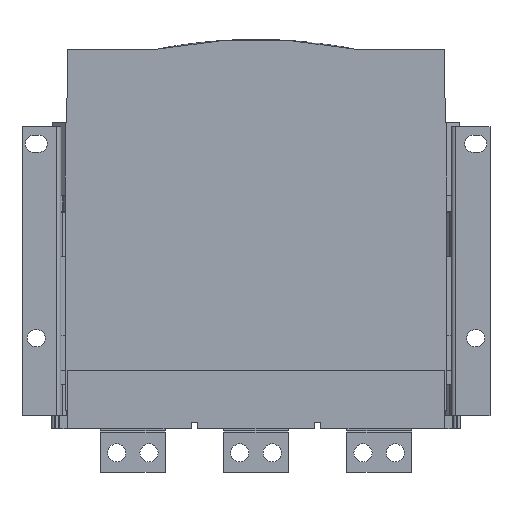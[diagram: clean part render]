
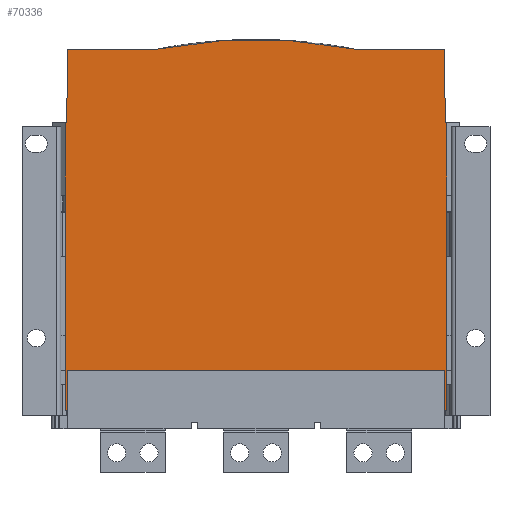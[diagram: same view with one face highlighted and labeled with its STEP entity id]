
A CAD part, front view. The second image highlights one B-rep face of the part: STEP entity #70336.
In plain terms, the highlighted planar face has unit normal (0, -1, 0).
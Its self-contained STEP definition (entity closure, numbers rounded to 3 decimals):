
#846 = LINE ( 'NONE', #36743, #36510 ) ;
#3301 = ORIENTED_EDGE ( 'NONE', *, *, #56195, .T. ) ;
#3808 = VECTOR ( 'NONE', #16200, 1000. ) ;
#4419 = EDGE_CURVE ( 'NONE', #72844, #35437, #32919, .T. ) ;
#6377 = CARTESIAN_POINT ( 'NONE',  ( 589.21, 279.746, 924.584 ) ) ;
#6448 = EDGE_CURVE ( 'NONE', #58912, #54124, #41372, .T. ) ;
#6473 = VECTOR ( 'NONE', #20622, 1000. ) ;
#7657 = VERTEX_POINT ( 'NONE', #35213 ) ;
#8464 = CARTESIAN_POINT ( 'NONE',  ( 587.41, 279.746, 566.152 ) ) ;
#9448 = ORIENTED_EDGE ( 'NONE', *, *, #16133, .F. ) ;
#10294 = DIRECTION ( 'NONE',  ( 0., 0., -1. ) ) ;
#12829 = VECTOR ( 'NONE', #49314, 1000. ) ;
#12830 = DIRECTION ( 'NONE',  ( 0., 0., 1. ) ) ;
#13909 = CARTESIAN_POINT ( 'NONE',  ( 587.71, 279.746, 283.769 ) ) ;
#14211 = LINE ( 'NONE', #8464, #6473 ) ;
#15276 = EDGE_CURVE ( 'NONE', #39826, #35085, #77243, .T. ) ;
#16133 = EDGE_CURVE ( 'NONE', #58912, #26922, #846, .T. ) ;
#16169 = CARTESIAN_POINT ( 'NONE',  ( 588.261, 279.746, 505.269 ) ) ;
#16200 = DIRECTION ( 'NONE',  ( 1., 0., 0. ) ) ;
#16204 = CARTESIAN_POINT ( 'NONE',  ( 589.21, 279.746, 924.584 ) ) ;
#17637 = ORIENTED_EDGE ( 'NONE', *, *, #65179, .F. ) ;
#18438 = ORIENTED_EDGE ( 'NONE', *, *, #53153, .F. ) ;
#19652 = CARTESIAN_POINT ( 'NONE',  ( 295.21, 279.746, 505.269 ) ) ;
#19673 = DIRECTION ( 'NONE',  ( 1., 0., 0. ) ) ;
#20032 = CARTESIAN_POINT ( 'NONE',  ( 442.21, 279.746, 174.696 ) ) ;
#20251 = LINE ( 'NONE', #65816, #3808 ) ;
#20622 = DIRECTION ( 'NONE',  ( 0.014, 0., -1. ) ) ;
#21137 = ORIENTED_EDGE ( 'NONE', *, *, #32835, .T. ) ;
#22074 = CARTESIAN_POINT ( 'NONE',  ( 284.21, 279.746, 561.919 ) ) ;
#24074 = ORIENTED_EDGE ( 'NONE', *, *, #54371, .T. ) ;
#24216 = FACE_OUTER_BOUND ( 'NONE', #51347, .T. ) ;
#26197 = DIRECTION ( 'NONE',  ( 0., -1., 0. ) ) ;
#26922 = VERTEX_POINT ( 'NONE', #78757 ) ;
#28704 = CARTESIAN_POINT ( 'NONE',  ( 587.71, 279.746, 314.269 ) ) ;
#30462 = LINE ( 'NONE', #63771, #51870 ) ;
#30855 = VECTOR ( 'NONE', #19673, 1000. ) ;
#31464 = CARTESIAN_POINT ( 'NONE',  ( 296.71, 279.746, 314.269 ) ) ;
#31634 = CARTESIAN_POINT ( 'NONE',  ( 587.47, 279.746, 561.919 ) ) ;
#31658 = CARTESIAN_POINT ( 'NONE',  ( 295.21, 279.746, 283.769 ) ) ;
#32300 = VERTEX_POINT ( 'NONE', #47610 ) ;
#32507 = DIRECTION ( 'NONE',  ( 1., 0., 0. ) ) ;
#32835 = EDGE_CURVE ( 'NONE', #72844, #57263, #55404, .T. ) ;
#32919 = LINE ( 'NONE', #71234, #58117 ) ;
#32930 = DIRECTION ( 'NONE',  ( 0., 0., 1. ) ) ;
#33860 = DIRECTION ( 'NONE',  ( 1., 0., 0. ) ) ;
#34231 = DIRECTION ( 'NONE',  ( 0., 0., -1. ) ) ;
#34610 = EDGE_CURVE ( 'NONE', #38777, #39826, #73108, .T. ) ;
#35011 = CARTESIAN_POINT ( 'NONE',  ( 364.21, 279.746, 561.919 ) ) ;
#35085 = VERTEX_POINT ( 'NONE', #70006 ) ;
#35213 = CARTESIAN_POINT ( 'NONE',  ( 296.951, 279.746, 561.919 ) ) ;
#35437 = VERTEX_POINT ( 'NONE', #68885 ) ;
#36117 = CARTESIAN_POINT ( 'NONE',  ( 589.21, 279.746, 283.769 ) ) ;
#36510 = VECTOR ( 'NONE', #63198, 1000. ) ;
#36743 = CARTESIAN_POINT ( 'NONE',  ( 589.21, 279.746, 505.269 ) ) ;
#36948 = DIRECTION ( 'NONE',  ( 1., 0., 0. ) ) ;
#38383 = LINE ( 'NONE', #22074, #65429 ) ;
#38566 = DIRECTION ( 'NONE',  ( -1., 0., 0. ) ) ;
#38777 = VERTEX_POINT ( 'NONE', #16169 ) ;
#39651 = VECTOR ( 'NONE', #71478, 1000. ) ;
#39826 = VERTEX_POINT ( 'NONE', #63755 ) ;
#40030 = EDGE_CURVE ( 'NONE', #7657, #26922, #64015, .T. ) ;
#41027 = CARTESIAN_POINT ( 'NONE',  ( 295.21, 279.746, 924.584 ) ) ;
#41372 = LINE ( 'NONE', #41027, #54013 ) ;
#42014 = AXIS2_PLACEMENT_3D ( 'NONE', #20032, #26197, #38566 ) ;
#44928 = EDGE_CURVE ( 'NONE', #65767, #57263, #30462, .T. ) ;
#44942 = ORIENTED_EDGE ( 'NONE', *, *, #6448, .T. ) ;
#45228 = CARTESIAN_POINT ( 'NONE',  ( 589.21, 279.746, 505.269 ) ) ;
#46169 = VERTEX_POINT ( 'NONE', #35011 ) ;
#47610 = CARTESIAN_POINT ( 'NONE',  ( 520.21, 279.746, 561.919 ) ) ;
#48870 = VERTEX_POINT ( 'NONE', #31634 ) ;
#49066 = ORIENTED_EDGE ( 'NONE', *, *, #15276, .F. ) ;
#49314 = DIRECTION ( 'NONE',  ( -0.014, 0., -1. ) ) ;
#50138 = CARTESIAN_POINT ( 'NONE',  ( 284.21, 279.746, 561.919 ) ) ;
#51347 = EDGE_LOOP ( 'NONE', ( #52848, #49066, #53527, #18438, #17637, #24074, #60890, #61533, #9448, #44942, #3301, #63972, #21137, #69441 ) ) ;
#51870 = VECTOR ( 'NONE', #32930, 1000. ) ;
#52848 = ORIENTED_EDGE ( 'NONE', *, *, #77549, .T. ) ;
#53153 = EDGE_CURVE ( 'NONE', #48870, #38777, #14211, .T. ) ;
#53527 = ORIENTED_EDGE ( 'NONE', *, *, #34610, .F. ) ;
#54013 = VECTOR ( 'NONE', #10294, 1000. ) ;
#54124 = VERTEX_POINT ( 'NONE', #31658 ) ;
#54371 = EDGE_CURVE ( 'NONE', #32300, #46169, #55588, .T. ) ;
#55404 = LINE ( 'NONE', #65891, #59217 ) ;
#55588 = CIRCLE ( 'NONE', #42014, 395. ) ;
#56195 = EDGE_CURVE ( 'NONE', #54124, #35437, #20251, .T. ) ;
#56562 = DIRECTION ( 'NONE',  ( 0., 1., 0. ) ) ;
#56774 = VECTOR ( 'NONE', #32507, 1000. ) ;
#57263 = VERTEX_POINT ( 'NONE', #28704 ) ;
#57538 = LINE ( 'NONE', #36117, #58535 ) ;
#58117 = VECTOR ( 'NONE', #34231, 1000. ) ;
#58535 = VECTOR ( 'NONE', #36948, 1000. ) ;
#58912 = VERTEX_POINT ( 'NONE', #19652 ) ;
#59217 = VECTOR ( 'NONE', #59963, 1000. ) ;
#59963 = DIRECTION ( 'NONE',  ( 1., 0., 0. ) ) ;
#60890 = ORIENTED_EDGE ( 'NONE', *, *, #62907, .F. ) ;
#61533 = ORIENTED_EDGE ( 'NONE', *, *, #40030, .T. ) ;
#61793 = LINE ( 'NONE', #50138, #30855 ) ;
#62907 = EDGE_CURVE ( 'NONE', #7657, #46169, #61793, .T. ) ;
#63198 = DIRECTION ( 'NONE',  ( 1., 0., 0. ) ) ;
#63755 = CARTESIAN_POINT ( 'NONE',  ( 589.21, 279.746, 505.269 ) ) ;
#63771 = CARTESIAN_POINT ( 'NONE',  ( 587.71, 279.746, 291.769 ) ) ;
#63972 = ORIENTED_EDGE ( 'NONE', *, *, #4419, .F. ) ;
#64015 = LINE ( 'NONE', #79553, #12829 ) ;
#64632 = AXIS2_PLACEMENT_3D ( 'NONE', #6377, #56562, #12830 ) ;
#65179 = EDGE_CURVE ( 'NONE', #32300, #48870, #38383, .T. ) ;
#65429 = VECTOR ( 'NONE', #33860, 1000. ) ;
#65767 = VERTEX_POINT ( 'NONE', #13909 ) ;
#65816 = CARTESIAN_POINT ( 'NONE',  ( 589.21, 279.746, 283.769 ) ) ;
#65891 = CARTESIAN_POINT ( 'NONE',  ( 442.21, 279.746, 314.269 ) ) ;
#67865 = PLANE ( 'NONE',  #64632 ) ;
#68885 = CARTESIAN_POINT ( 'NONE',  ( 296.71, 279.746, 283.769 ) ) ;
#69441 = ORIENTED_EDGE ( 'NONE', *, *, #44928, .F. ) ;
#70006 = CARTESIAN_POINT ( 'NONE',  ( 589.21, 279.746, 283.769 ) ) ;
#70336 = ADVANCED_FACE ( 'NONE', ( #24216 ), #67865, .F. ) ;
#71234 = CARTESIAN_POINT ( 'NONE',  ( 296.71, 279.746, 291.769 ) ) ;
#71478 = DIRECTION ( 'NONE',  ( 0., 0., -1. ) ) ;
#72844 = VERTEX_POINT ( 'NONE', #31464 ) ;
#73108 = LINE ( 'NONE', #45228, #56774 ) ;
#77243 = LINE ( 'NONE', #16204, #39651 ) ;
#77549 = EDGE_CURVE ( 'NONE', #65767, #35085, #57538, .T. ) ;
#78757 = CARTESIAN_POINT ( 'NONE',  ( 296.16, 279.746, 505.269 ) ) ;
#79553 = CARTESIAN_POINT ( 'NONE',  ( 295.21, 279.746, 437.269 ) ) ;
